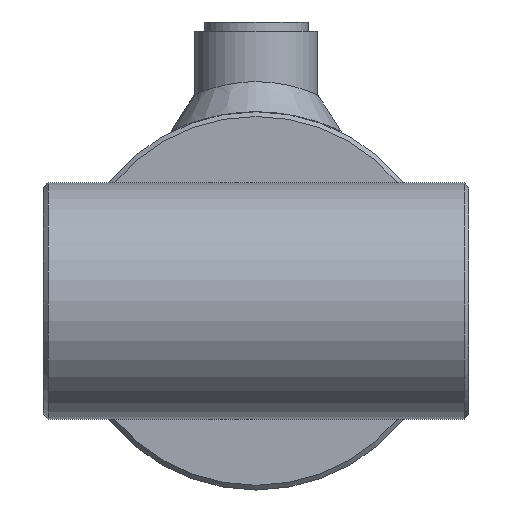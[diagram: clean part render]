
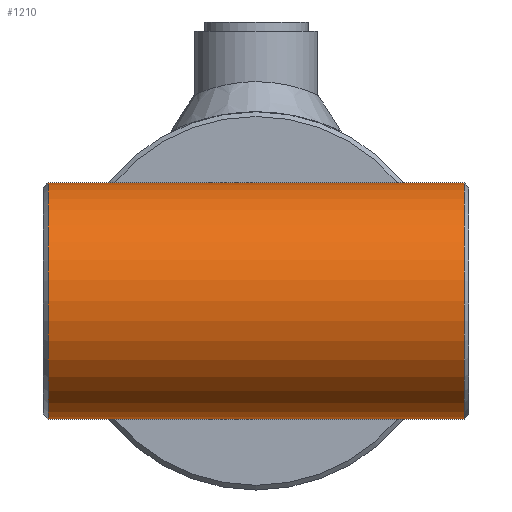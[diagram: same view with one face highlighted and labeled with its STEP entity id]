
A CAD part, left-side view. The second image highlights one B-rep face of the part: STEP entity #1210.
In plain terms, the highlighted cylindrical face has radius 25 mm (diameter 50 mm), a full revolution.
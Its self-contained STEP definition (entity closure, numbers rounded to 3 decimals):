
#1210 = ADVANCED_FACE( '', ( #2281, #2282 ), #2283, .T. );
#2281 = FACE_OUTER_BOUND( '', #10271, .T. );
#2282 = FACE_OUTER_BOUND( '', #10272, .T. );
#2283 = CYLINDRICAL_SURFACE( '', #10273, 25. );
#10271 = EDGE_LOOP( '', ( #12257 ) );
#10272 = EDGE_LOOP( '', ( #12258 ) );
#10273 = AXIS2_PLACEMENT_3D( '', #12259, #12260, #12261 );
#12257 = ORIENTED_EDGE( '', *, *, #12503, .T. );
#12258 = ORIENTED_EDGE( '', *, *, #13030, .T. );
#12259 = CARTESIAN_POINT( '', ( 0., -45., 0. ) );
#12260 = DIRECTION( '', ( 0., -1., 0. ) );
#12261 = DIRECTION( '', ( 0., 0., 1. ) );
#12503 = EDGE_CURVE( '', #13329, #13329, #13330, .F. );
#13030 = EDGE_CURVE( '', #14109, #14109, #14110, .T. );
#13329 = VERTEX_POINT( '', #14265 );
#13330 = CIRCLE( '', #14266, 25. );
#14109 = VERTEX_POINT( '', #17622 );
#14110 = CIRCLE( '', #17623, 25. );
#14265 = CARTESIAN_POINT( '', ( 0., 44., 25. ) );
#14266 = AXIS2_PLACEMENT_3D( '', #17909, #17910, #17911 );
#17622 = CARTESIAN_POINT( '', ( 0., -44., 25. ) );
#17623 = AXIS2_PLACEMENT_3D( '', #18314, #18315, #18316 );
#17909 = CARTESIAN_POINT( '', ( 0., 44., 0. ) );
#17910 = DIRECTION( '', ( 0., 1., 0. ) );
#17911 = DIRECTION( '', ( 0., 0., 1. ) );
#18314 = CARTESIAN_POINT( '', ( 0., -44., 0. ) );
#18315 = DIRECTION( '', ( 0., 1., 0. ) );
#18316 = DIRECTION( '', ( 0., 0., 1. ) );
